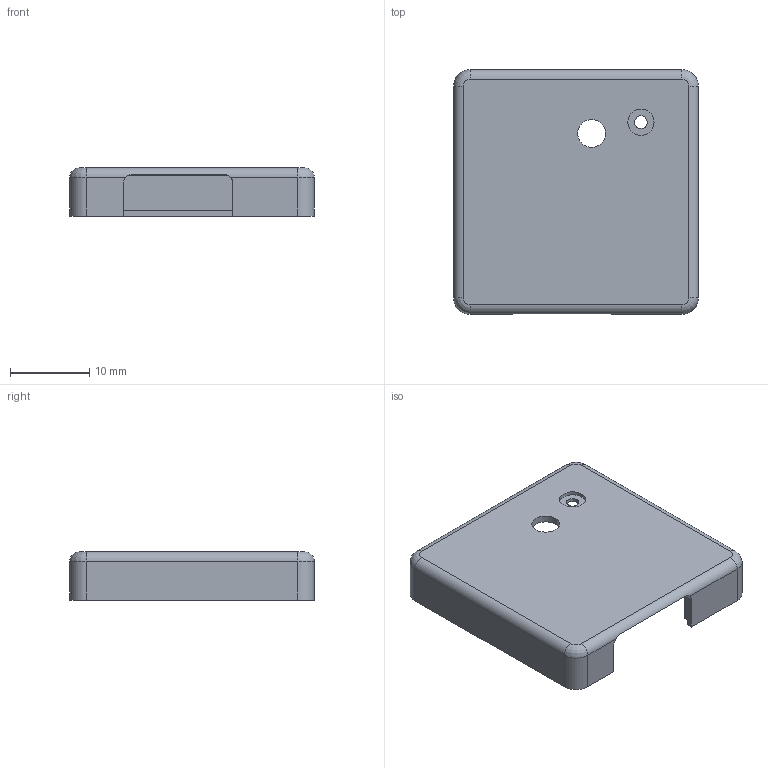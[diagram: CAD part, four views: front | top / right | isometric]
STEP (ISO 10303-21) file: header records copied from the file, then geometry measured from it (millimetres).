
FILE_DESCRIPTION(('Open CASCADE Model'),'2;1');
FILE_NAME('Open CASCADE Shape Model','2026-10-29T14:02:22',('Author'),( 'Open CASCADE'),'Open CASCADE STEP processor 7.9','Open CASCADE 7.9' ,'Unknown');
FILE_SCHEMA(('AUTOMOTIVE_DESIGN { 1 0 10303 214 1 1 1 1 }'));
Length unit declared in the file: millimetre
Products named in the file (1): Open CASCADE STEP translator 7.9 2
Bounding box: 30.8 x 30.8 x 6.08 mm (x, y, z)
Volume: 1468 mm3; surface area: 2996.9 mm2
Topology: 1 solids, 1 shells, 49 faces, 130 edges, 84 vertices
Faces by surface type: plane 24, cylinder 21, revolution 4
Full cylindrical faces by diameter (mm): 1.6 x1, 3.3 x1, 3.5 x1
Entity records: 3310 total; most frequent: CARTESIAN_POINT 782, DIRECTION 446, ORIENTED_EDGE 260, PCURVE 260, DEFINITIONAL_REPRESENTATION 260, LINE 226, VECTOR 226, EDGE_CURVE 130
